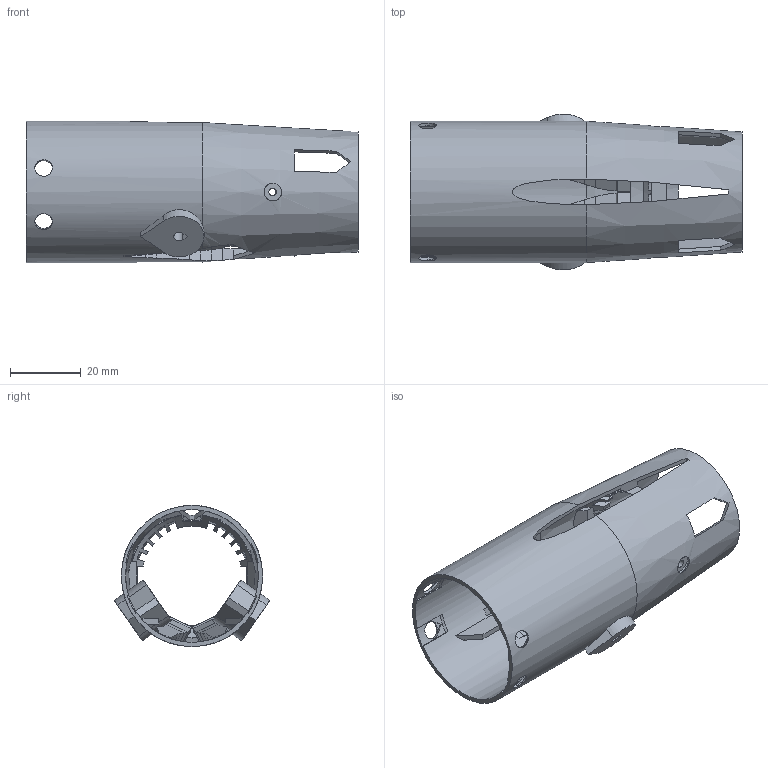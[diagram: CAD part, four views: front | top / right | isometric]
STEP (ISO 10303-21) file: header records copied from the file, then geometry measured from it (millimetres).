
FILE_DESCRIPTION(('SkyG Speed 90B - revision C6B-17 - 2026-10-13','F3-tail-module'),'2;1');
FILE_NAME('F3-tail-module_C6B-17','2026-10-13T21:54:45',('Author'),( 'Open CASCADE'),'Open CASCADE STEP processor 7.9','Open CASCADE 7.9' ,'Unknown');
FILE_SCHEMA(('AUTOMOTIVE_DESIGN { 1 0 10303 214 1 1 1 1 }'));
Length unit declared in the file: millimetre
Products named in the file (1): F3-tail-module C6B-17
Bounding box: 94 x 44.07 x 40 mm (x, y, z)
Volume: 16711.3 mm3; surface area: 24052.4 mm2
Topology: 1 solids, 1 shells, 405 faces, 1233 edges, 824 vertices
Faces by surface type: plane 273, cylinder 84, bspline 36, cone 12
Full cylindrical faces by diameter (mm): 2.2 x2, 37.6 x1, 40 x1
Entity records: 40148 total; most frequent: CARTESIAN_POINT 18231, DIRECTION 3320, ORIENTED_EDGE 2466, PCURVE 2466, DEFINITIONAL_REPRESENTATION 2466, LINE 1610, VECTOR 1610, B_SPLINE_CURVE_WITH_KNOTS 1427
